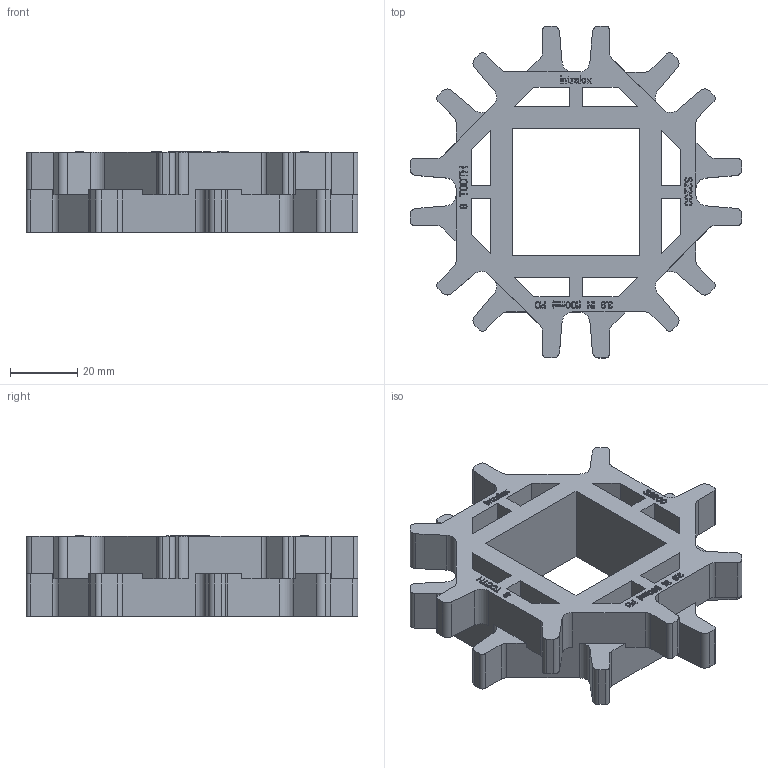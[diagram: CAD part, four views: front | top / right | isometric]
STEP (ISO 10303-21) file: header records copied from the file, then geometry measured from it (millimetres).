
FILE_DESCRIPTION((''),'2;1');
FILE_NAME('S2200_SPROCKET_39X15_40_SQ','2008-12-12T',('jmumphre'),(''),'PRO/ENGINEER BY PARAMETRIC TECHNOLOGY CORPORATION, 2008150','PRO/ENGINEER BY PARAMETRIC TECHNOLOGY CORPORATION, 2008150','');
FILE_SCHEMA(('CONFIG_CONTROL_DESIGN'));
Length unit declared in the file: inch
Products named in the file (1): S2200_SPROCKET_39X15_40_SQ
Bounding box: 99.06 x 99.06 x 24.13 mm (x, y, z)
Volume: 69620.9 mm3; surface area: 28690.5 mm2
Topology: 1 solids, 1 shells, 1161 faces, 3336 edges, 2224 vertices
Faces by surface type: plane 1097, cylinder 64
Entity records: 37394 total; most frequent: CARTESIAN_POINT 6721, ORIENTED_EDGE 6672, DIRECTION 5786, EDGE_CURVE 3336, VECTOR 3208, LINE 3208, VERTEX_POINT 2224, AXIS2_PLACEMENT_3D 1289
